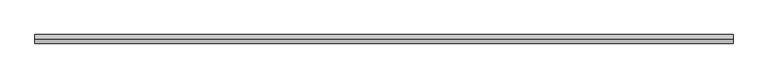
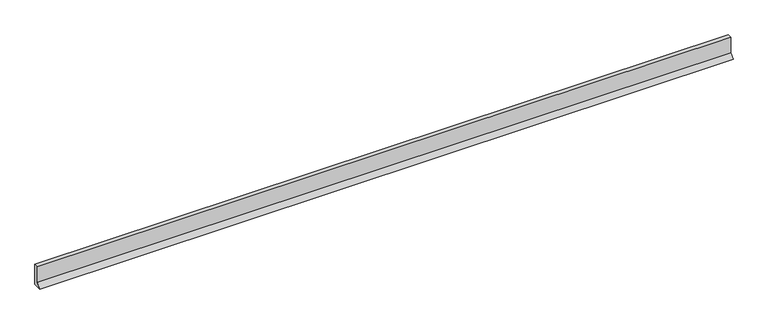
"""IFC4 building model written with IfcOpenShell, lengths in millimetres: plate geometry, ATELIERS 3S_EPURE CDB 250_HORIZONTAL : AZURO."""

from ifc_helpers import new_model, si_unit, frame, origin, place, context, project, spatial, polyline, outline, extrude, source, transform, mapped, element, save


def plate_fd93602a(model_context):
    return source(origin(), model_context, "Body", "SweptSolid", [
        extrude(outline(polyline([(-30.0201339, 31.7071152), (-30.0201339, 150.0), (0.0, 150.0), (0.0, 0.0), (-61.727249, 0.0), (-30.0201339, 31.7071152)])), frame((-2500.0, 0.0, 0.0), z_axis=(1.0, 0.0, 0.0), x_axis=(0.0, 1.0, 0.0)), (0.0, 0.0, 1.0), 5000.0),
    ])


if __name__ == "__main__":
    model = new_model("IFC4")
    model_context = context("Model", 3, world=origin())
    ifc_project = project(units=[si_unit("LENGTHUNIT", "METRE", prefix="MILLI")], contexts=[model_context])
    site = spatial("IfcSite", under=ifc_project)
    building = spatial("IfcBuilding", under=site)
    placement = place(None, origin())
    plate_shape = plate_fd93602a(model_context)
    element("IfcPlate", 1, ObjectType="ATELIERS 3S_EPURE CDB 250_HORIZONTAL : AZURO", at=placement, inside=building, context=model_context, shape_type="MappedRepresentation", body=[
        mapped(plate_shape, transform((0.0, 0.0, 0.0), x_axis=(1.0, 0.0, 0.0), y_axis=(0.0, 1.0, 0.0), z_axis=(0.0, 0.0, 1.0))),
    ])
    save(model, "model.ifc")
